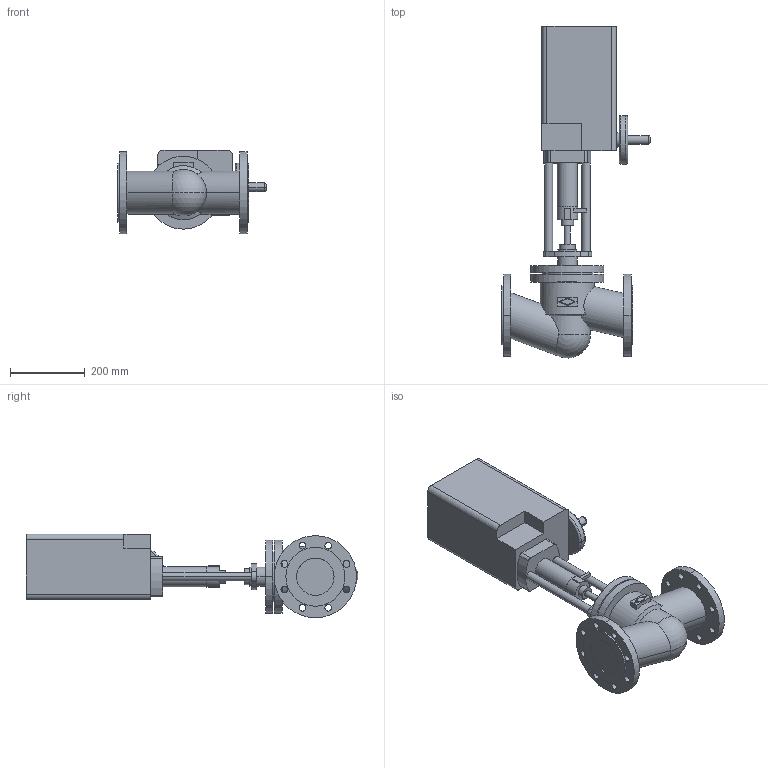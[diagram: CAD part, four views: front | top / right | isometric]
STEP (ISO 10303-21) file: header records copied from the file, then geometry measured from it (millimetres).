
FILE_DESCRIPTION(('OneSpaceDesigner STEP Export'),'2;1');
FILE_NAME('c000001187.stp','2005-01-05T12:49:38',(''),(''),'OneSpace Designer STEP processor (Jan. 2003) for AP203(Solid Model)','OneSpace Designer 12.01D 09-Jul-2004 (C) CoCreate Software GmbH','');
FILE_SCHEMA(('CONFIG_CONTROL_DESIGN'));
Length unit declared in the file: millimetre
Products named in the file (1): 1
Bounding box: 396.6 x 888.47 x 224 mm (x, y, z)
Volume: 20303986.2 mm3; surface area: 859764.4 mm2
Topology: 1 solids, 1 shells, 177 faces, 442 edges, 292 vertices
Faces by surface type: cylinder 96, plane 71, torus 6, sphere 2, cone 2
Entity records: 5130 total; most frequent: CARTESIAN_POINT 1084, ORIENTED_EDGE 880, DIRECTION 734, EDGE_CURVE 440, VERTEX_POINT 292, AXIS2_PLACEMENT_3D 263, EDGE_LOOP 240, VECTOR 208
